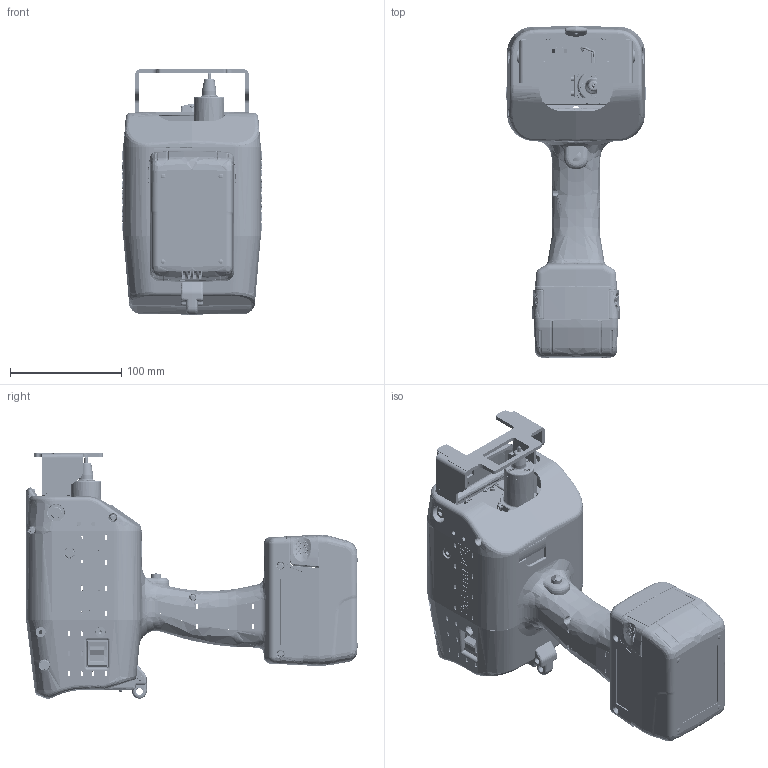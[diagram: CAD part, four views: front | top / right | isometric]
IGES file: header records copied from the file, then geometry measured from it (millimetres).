
Start section: SolidWorks IGES file using analytic representation for surfaces
Global section: file name: C:\東京彫刻 Solidworks Data\_外観図関係\Patmark2\3D\2026_07\Patmark2 v1 -A BA.IGS; native system: SolidWorks 2023; preprocessor: SolidWorks 2023; author: tocho; date: 260709.081842; units: millimetre
Bounding box: 125.6 x 298.78 x 221 mm (x, y, z)
Surface area: 519640.5 mm2 (no closed solid volume)
Topology: 0 solids, 0 shells, 9266 faces, 92601 edges, 92443 vertices
Faces by surface type: bspline 6052, revolution 3214
